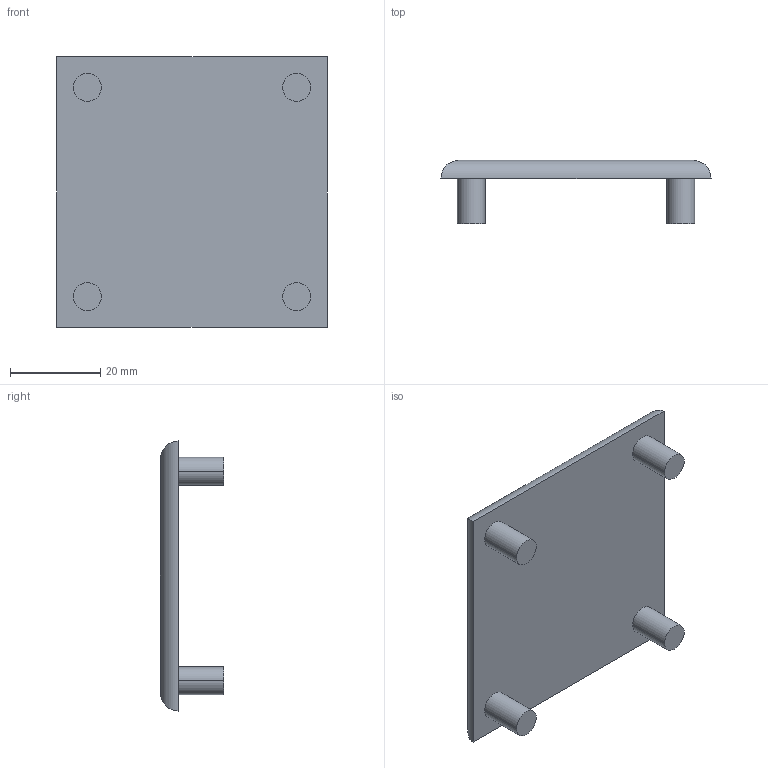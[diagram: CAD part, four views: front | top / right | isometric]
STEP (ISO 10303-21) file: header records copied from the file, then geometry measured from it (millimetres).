
FILE_DESCRIPTION((''),'2;1');
FILE_NAME('TAC606010','2002-12-27T',('Lipro doo'),('Lipro d.o.o.'),'PRO/ENGINEER BY PARAMETRIC TECHNOLOGY CORPORATION, 2001150','PRO/ENGINEER BY PARAMETRIC TECHNOLOGY CORPORATION, 2001150','');
FILE_SCHEMA(('CONFIG_CONTROL_DESIGN'));
Length unit declared in the file: millimetre
Products named in the file (1): TAC606010
Bounding box: 60 x 14 x 60 mm (x, y, z)
Volume: 14808.1 mm3; surface area: 8518 mm2
Topology: 1 solids, 1 shells, 18 faces, 36 edges, 24 vertices
Faces by surface type: cylinder 12, plane 6
Entity records: 554 total; most frequent: CARTESIAN_POINT 126, DIRECTION 84, ORIENTED_EDGE 72, EDGE_CURVE 36, AXIS2_PLACEMENT_3D 34, VERTEX_POINT 24, EDGE_LOOP 22, FACE_OUTER_BOUND 18
